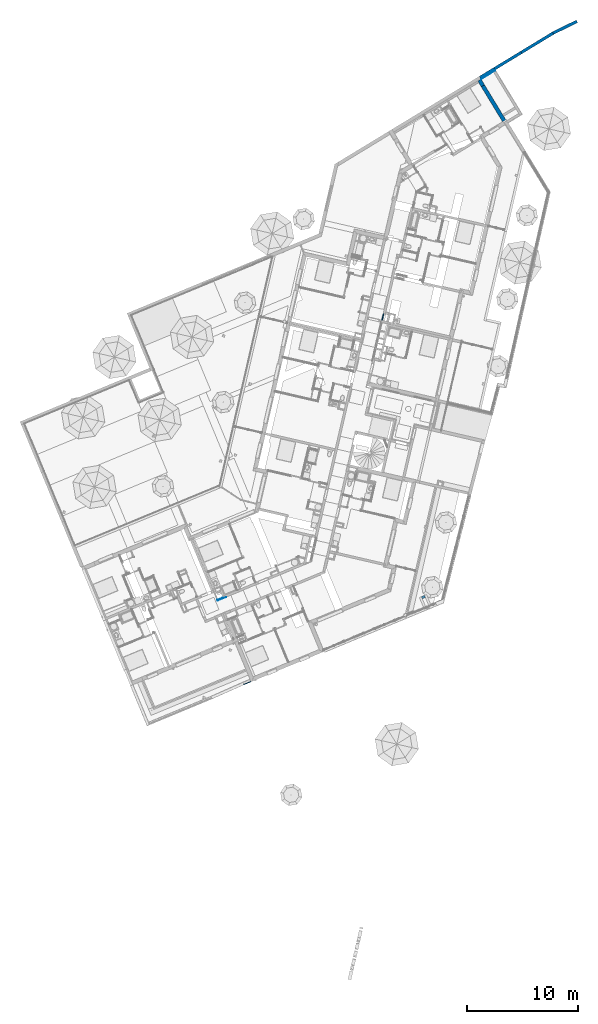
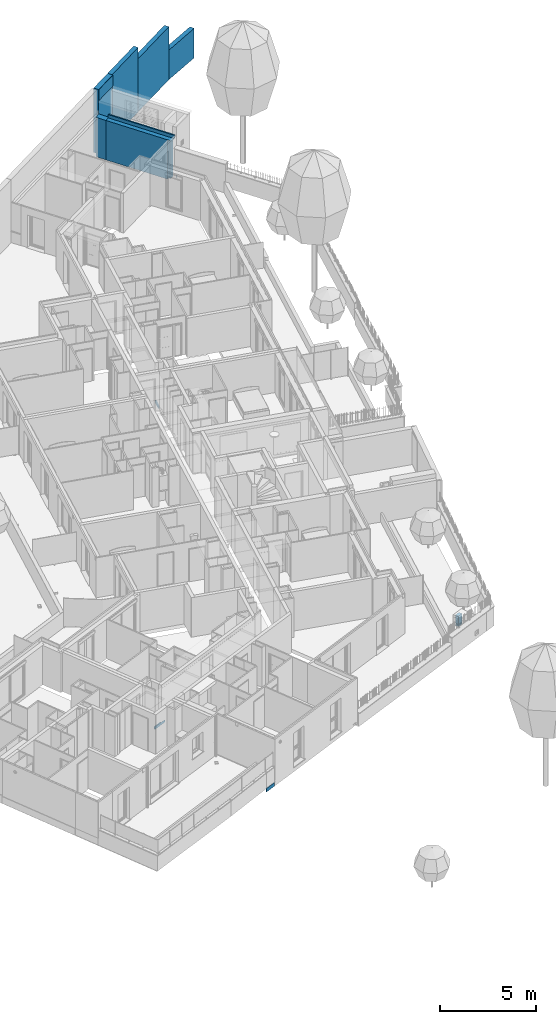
# One storey, part 64 of 119: 11 walls.
"""IFC2X3 building model written with IfcOpenShell, lengths in metres."""

from ifc_helpers import new_model, entity, si_unit, converted_unit, derived_unit, money_unit, direction, frame, origin_with_axes, place, context, subcontext, project, spatial, faceted_brep, material, material_list, type_object, element, save


model = new_model("IFC2X3")

# Units and contexts
model_context = context("Model", 3, precision=1e-05, world=origin_with_axes(), true_north=direction((0.0, 1.0)))
body_context = subcontext(model_context, "Body", "Model", "MODEL_VIEW")
ifc_project = project(units=[si_unit("LENGTHUNIT", "METRE"), si_unit("AREAUNIT", "SQUARE_METRE"), si_unit("VOLUMEUNIT", "CUBIC_METRE"), converted_unit("PLANEANGLEUNIT", "DEGREE", entity("IfcPlaneAngleMeasure", 0.0174532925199), si_unit("PLANEANGLEUNIT", "RADIAN"), dimensions=[0, 0, 0, 0, 0, 0, 0]), si_unit("SOLIDANGLEUNIT", "STERADIAN"), money_unit("EUR"), converted_unit("TIMEUNIT", "Year", entity("IfcTimeMeasure", 31556926.0), si_unit("TIMEUNIT", "SECOND"), dimensions=[0, 0, 1, 0, 0, 0, 0]), si_unit("MASSUNIT", "GRAM", prefix="KILO"), si_unit("THERMODYNAMICTEMPERATUREUNIT", "DEGREE_CELSIUS"), si_unit("LUMINOUSINTENSITYUNIT", "LUMEN"), si_unit("ENERGYUNIT", "JOULE", prefix="MEGA"), derived_unit("THERMALCONDUCTANCEUNIT", [(si_unit("POWERUNIT", "WATT"), 1), (si_unit("LENGTHUNIT", "METRE"), -1), (si_unit("THERMODYNAMICTEMPERATUREUNIT", "KELVIN"), -1)]), derived_unit("SPECIFICHEATCAPACITYUNIT", [(si_unit("ENERGYUNIT", "JOULE"), 1), (si_unit("MASSUNIT", "GRAM", prefix="KILO"), -1), (si_unit("THERMODYNAMICTEMPERATUREUNIT", "KELVIN"), -1)]), derived_unit("MASSDENSITYUNIT", [(si_unit("MASSUNIT", "GRAM", prefix="KILO"), 1), (si_unit("VOLUMEUNIT", "CUBIC_METRE"), -1)])], contexts=[model_context])

# Site, building, storey
site_placement = place(None, origin_with_axes())
site = spatial("IfcSite", under=ifc_project, at=site_placement, Name="Site", CompositionType="ELEMENT")
building_placement = place(site_placement, origin_with_axes())
building = spatial("IfcBuilding", under=site, at=building_placement, Name="Bâtiment", CompositionType="ELEMENT")
storey_placement = place(building_placement, origin_with_axes())
storey = spatial("IfcBuildingStorey", under=building, at=storey_placement, Name="Rez-de-chaussée", CompositionType="ELEMENT", Elevation=0.0)

# Walls
ifc_material_1 = material(Name="Béton")
wall_type_1 = type_object("IfcWallType", Name="Béton 300", PredefinedType="USERDEFINED")
wall_1_placement = place(storey_placement, frame((0.328833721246, 26.1416269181, -0.03), z_axis=(0.0, 0.0, 1.0), x_axis=(0.854539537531, 0.519386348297, 0.0)))
element("IfcWall", 1, at=wall_1_placement, inside=storey, type_object=wall_type_1, material=ifc_material_1, Name="Voile projeté béton par passes alternées", ObjectType="SOLIDWALL", context=body_context, shape_type="Brep", body=[
    faceted_brep([(1.515, -0.3, 4.1), (1.515, 0.0, 4.1), (0.0, 0.0, 4.1), (0.0, -0.3, 4.1), (1.515, -0.3, 0.0), (1.515, 0.0, 0.0), (0.0, 0.0, 0.0), (0.0, 0.0, 2.75), (0.0, -0.3, 2.75), (0.0, -0.3, 0.0)], [[[0, 1, 2, 3]], [[0, 4, 5, 1]], [[5, 6, 7, 2, 1]], [[2, 7, 8, 3]], [[4, 0, 3, 8, 9]], [[6, 5, 4, 9]], [[6, 9, 8, 7]]]),
])
ifc_material_2 = material(Name="Parpaing 20cm")
wall_type_2 = type_object("IfcWallType", Name="Parpaing 20cm 200", PredefinedType="STANDARD")
wall_2_placement = place(storey_placement, frame((-4.85477478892, -20.5900389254, 0.0), z_axis=(0.0, 0.0, 1.0), x_axis=(0.923701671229, 0.383112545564, 0.0)))
element("IfcWall", 2, at=wall_2_placement, inside=storey, type_object=wall_type_2, material=ifc_material_2, Name="M_Ext-011", ObjectType="STANDARD", context=body_context, shape_type="Brep", body=[
    faceted_brep([(0.3, 0.0, 0.01), (0.3, 0.0, 0.110000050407), (0.3, -0.2, 0.110000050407), (0.3, -0.2, 0.01), (0.0, 0.0, 0.01), (0.0, 0.0, 0.110000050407), (0.0, -0.2, 0.110000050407), (0.0, -0.2, 0.01)], [[[0, 1, 2, 3]], [[4, 5, 1, 0]], [[5, 6, 2, 1]], [[3, 2, 6, 7]], [[4, 0, 3, 7]], [[7, 6, 5, 4]]]),
    faceted_brep([(0.0, -0.2, 0.67), (0.0, -0.2, 0.150000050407), (0.3, -0.2, 0.150000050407), (0.3, -0.2, 0.67), (0.0, 0.0, 0.67), (0.0, 0.0, 0.150000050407), (0.3, 0.0, 0.150000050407), (0.3, 0.0, 0.67)], [[[0, 1, 2, 3]], [[4, 5, 1, 0]], [[5, 6, 2, 1]], [[3, 2, 6, 7]], [[0, 3, 7, 4]], [[7, 6, 5, 4]]]),
])
ifc_material_3 = material(Name="Finition ext - Crépis")
ifc_material_4 = material(Name="Béton cellulaire")
ifc_material_5 = material(Name="Mortier")
ifc_material_6 = material(Name="Isolation - Polystyrène expansé")
ifc_material_7 = material(Name="Bloc ELITHERM")
ifc_material_8 = material(Name="Isolation - Polystyrène extrudé")
ifc_material_9 = material(Name="Finition int - Plaque de plâtre")
ifc_material_list_1 = material_list([ifc_material_3, ifc_material_4, ifc_material_5, ifc_material_6, ifc_material_7, ifc_material_8, ifc_material_9])
wall_type_3 = type_object("IfcWallType", Name="Mur ALKERN + planelle 21 345 x 2720", PredefinedType="USERDEFINED")
wall_3_placement = place(storey_placement, frame((0.809018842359, 25.3805019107, 0.0), z_axis=(0.0, 0.0, 1.0), x_axis=(0.519386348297, -0.854539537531, 0.0)))
element("IfcWall", 3, at=wall_3_placement, inside=storey, type_object=wall_type_3, material=ifc_material_list_1, Name="Mue bloc ALKERN isolé", ObjectType="SOLIDWALL", context=body_context, shape_type="Brep", body=[
    faceted_brep([(0.0, -0.0149999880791, 2.72), (3.79518699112, -0.0149999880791, 2.72), (3.79518699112, 0.0, 2.72), (0.0, 0.0, 2.72), (3.79518699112, -0.0149999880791, 0.0), (0.0, -0.0149999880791, 0.0), (3.79518699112, 0.0, 0.0), (0.0, 0.0, 0.0)], [[[0, 1, 2, 3]], [[4, 1, 0, 5]], [[6, 2, 1, 4]], [[3, 2, 6, 7]], [[7, 5, 0, 3]], [[7, 6, 4, 5]]]),
    faceted_brep([(3.99518699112, 0.0, 0.0), (3.99518699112, 0.0, 2.50955), (3.99937179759, 0.0, 2.50955), (3.99937176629, 0.0, 0.207793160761), (3.99832640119, 0.0, 0.207793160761), (3.99832640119, 0.0, 0.176532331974), (3.99832640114, 0.0, 0.169727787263), (3.99937179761, 0.0, 0.169414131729), (4.02457697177, 0.0, 0.161852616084), (4.02457697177, 0.0, 0.160000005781), (4.02457697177, 0.0, 0.133633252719), (4.00937182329, 0.0, 0.133633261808), (4.00937182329, 0.0, 0.0), (3.99518699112, -0.0149999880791, 2.50955), (3.99518699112, -0.0149999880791, 0.0), (3.99937179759, -0.0149999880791, 2.50955), (3.99937176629, -0.0149999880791, 0.207793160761), (3.99832640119, -0.0149999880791, 0.207793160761), (3.99832640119, -0.0149999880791, 0.176532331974), (3.99832640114, -0.0149999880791, 0.169727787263), (3.99937179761, -0.0149999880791, 0.169414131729), (4.02457697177, -0.0149999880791, 0.161852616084), (4.02457697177, -0.0149999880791, 0.160000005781), (4.02457697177, -0.0149999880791, 0.133633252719), (4.00937182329, -0.0149999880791, 0.133633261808), (4.00937182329, -0.0149999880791, 0.0)], [[[0, 1, 2, 3, 4, 5, 6, 7, 8, 9, 10, 11, 12]], [[13, 1, 0, 14]], [[1, 13, 15, 2]], [[2, 15, 16, 3]], [[3, 16, 17, 4]], [[5, 4, 17, 18]], [[5, 18, 19, 6]], [[20, 7, 6, 19]], [[7, 20, 21, 8]], [[9, 8, 21, 22]], [[9, 22, 23, 10]], [[10, 23, 24, 11]], [[25, 12, 11, 24]], [[14, 0, 12, 25]], [[13, 14, 25, 24, 23, 22, 21, 20, 19, 18, 17, 16, 15]]]),
    faceted_brep([(3.99518699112, 0.0, 2.51999999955), (3.99518699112, 0.0, 2.72), (3.99937180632, 0.0, 2.72), (3.99937180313, 0.0, 2.51999999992), (3.99937180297, 0.0, 2.50999999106), (3.99518699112, 0.0, 2.50999999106), (3.99518699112, -0.0149999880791, 2.72), (3.99518699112, -0.0149999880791, 2.51999999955), (3.99937180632, -0.0149999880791, 2.72), (3.99937180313, -0.0149999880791, 2.51999999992), (3.99937180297, -0.0149999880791, 2.50999999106), (3.99518699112, -0.0149999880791, 2.50999999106)], [[[0, 1, 2, 3, 4, 5]], [[6, 1, 0, 7]], [[1, 6, 8, 2]], [[3, 2, 8, 9]], [[3, 9, 10, 4]], [[11, 5, 4, 10]], [[7, 0, 5, 11]], [[6, 7, 11, 10, 9, 8]]]),
    faceted_brep([(3.95137179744, -0.0629999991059, 2.72), (3.95137179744, -0.015, 2.72), (0.0, -0.015, 2.72), (0.0, -0.0629999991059, 2.72), (3.95137179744, -0.015, 2.51999999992), (3.95137179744, -0.0629999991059, 2.51999999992), (0.0, -0.015, 2.51999999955), (0.0, -0.0629999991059, 2.51999999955)], [[[0, 1, 2, 3]], [[4, 1, 0, 5]], [[1, 4, 6, 2]], [[6, 7, 3, 2]], [[5, 0, 3, 7]], [[4, 5, 7, 6]]]),
    faceted_brep([(3.93137179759, -0.083, 2.52), (3.93137179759, -0.015, 2.52), (0.0, -0.015, 2.52), (0.0, -0.083, 2.52), (3.93137179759, -0.015, 2.50999999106), (3.93137179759, -0.083, 2.50999999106), (0.0, -0.015, 2.51), (0.0, -0.083, 2.51)], [[[0, 1, 2, 3]], [[4, 1, 0, 5]], [[1, 4, 6, 2]], [[7, 3, 2, 6]], [[5, 0, 3, 7]], [[4, 5, 7, 6]]]),
    faceted_brep([(0.0, -0.083000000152, 2.72), (3.93137179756, -0.083000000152, 2.72), (3.93137179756, -0.0630000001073, 2.72), (0.0, -0.0630000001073, 2.72), (0.0, -0.083000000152, 2.51999999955), (3.93137179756, -0.083000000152, 2.51999999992), (3.93137179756, -0.0630000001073, 2.51999999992), (0.0, -0.0630000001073, 2.51999999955)], [[[0, 1, 2, 3]], [[4, 5, 1, 0]], [[5, 6, 2, 1]], [[3, 2, 6, 7]], [[4, 0, 3, 7]], [[7, 6, 5, 4]]]),
    faceted_brep([(3.93137179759, -0.0829999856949, 2.50999999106), (3.93137179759, -0.015, 2.50999999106), (0.0, -0.015, 2.50999999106), (0.0, -0.0829999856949, 2.50999999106), (3.93137179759, -0.015, 2.50955), (3.93137179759, -0.214999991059, 2.50999999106), (3.93137179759, -0.214999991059, 2.50955), (3.79937180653, -0.015, 2.50955001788), (3.79937180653, -0.015, 0.207793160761), (3.79937180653, -0.015, 0.176532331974), (3.79937180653, -0.015, 0.169414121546), (3.79937180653, -0.015, 0.160000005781), (3.79937180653, -0.015, 0.133633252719), (3.79937180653, -0.015, 0.0), (0.0, -0.015, 0.0), (0.0, -0.214999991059, 0.0), (0.0, -0.214999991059, 2.50999999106), (3.79937180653, -0.214999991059, 0.0), (3.79937180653, -0.214999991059, 0.133633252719), (3.79937180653, -0.214999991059, 0.160000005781), (3.79937180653, -0.214999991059, 0.169414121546), (3.79937180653, -0.214999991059, 0.176532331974), (3.79937180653, -0.214999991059, 0.207793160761), (3.79937180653, -0.214999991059, 2.50955001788)], [[[0, 1, 2, 3]], [[4, 1, 0, 5, 6]], [[1, 4, 7, 8, 9, 10, 11, 12, 13, 14, 2]], [[2, 14, 15, 16, 3]], [[5, 0, 3, 16]], [[6, 5, 16, 15, 17, 18, 19, 20, 21, 22, 23]], [[4, 6, 23, 7]], [[23, 22, 8, 7]], [[21, 9, 8, 22]], [[9, 21, 20, 10]], [[20, 19, 11, 10]], [[12, 11, 19, 18]], [[12, 18, 17, 13]], [[13, 17, 15, 14]]]),
    faceted_brep([(0.0, -0.335000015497, 2.51), (3.9313717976, -0.335000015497, 2.50999999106), (3.93137179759, -0.215000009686, 2.50999999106), (0.0, -0.215000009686, 2.51), (3.79937181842, -0.335000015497, 2.50955001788), (3.9313717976, -0.335000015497, 2.50955), (0.0, -0.335000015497, 0.0), (3.67937178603, -0.335000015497, 0.0), (3.67937178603, -0.335000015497, 0.133633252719), (3.67937178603, -0.335000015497, 0.160000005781), (3.67937178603, -0.335000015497, 0.169414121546), (3.67937178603, -0.335000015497, 0.176532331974), (3.67937178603, -0.335000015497, 0.207793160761), (3.67937178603, -0.335000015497, 2.50955001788), (3.93137179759, -0.215000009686, 2.50955), (3.79937181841, -0.215000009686, 2.50955001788), (3.67937178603, -0.215000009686, 2.50955001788), (3.67937178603, -0.215000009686, 0.207793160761), (3.67937178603, -0.215000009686, 0.176532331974), (3.67937178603, -0.215000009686, 0.169414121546), (3.67937178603, -0.215000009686, 0.160000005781), (3.67937178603, -0.215000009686, 0.133633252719), (3.67937178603, -0.215000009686, 0.0), (0.0, -0.215000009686, 0.0)], [[[0, 1, 2, 3]], [[4, 5, 1, 0, 6, 7, 8, 9, 10, 11, 12, 13]], [[5, 14, 2, 1]], [[3, 2, 14, 15, 16, 17, 18, 19, 20, 21, 22, 23]], [[3, 23, 6, 0]], [[15, 14, 5, 4]], [[6, 23, 22, 7]], [[22, 21, 8, 7]], [[21, 20, 9, 8]], [[9, 20, 19, 10]], [[10, 19, 18, 11]], [[12, 11, 18, 17]], [[16, 13, 12, 17]], [[15, 4, 13, 16]]]),
    faceted_brep([(0.0, -0.34499998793, 2.51), (3.9313717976, -0.34499998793, 2.50999999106), (3.9313717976, -0.335000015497, 2.50999999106), (0.0, -0.335000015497, 2.51), (3.79937181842, -0.34499998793, 2.50955001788), (3.9313717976, -0.34499998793, 2.50955), (0.0, -0.34499998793, 0.0), (3.66937181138, -0.34499998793, 0.0), (3.66937181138, -0.34499998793, 0.133633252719), (3.66937181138, -0.34499998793, 0.160000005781), (3.66937181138, -0.34499998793, 0.169414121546), (3.66937181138, -0.34499998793, 0.176532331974), (3.66937181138, -0.34499998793, 0.207793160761), (3.66937181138, -0.34499998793, 2.50955001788), (3.67937178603, -0.34499998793, 2.50955001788), (3.9313717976, -0.335000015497, 2.50955), (3.79937181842, -0.335000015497, 2.50955001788), (3.67937178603, -0.335000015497, 2.50955001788), (3.66937181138, -0.335000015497, 2.50955001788), (3.66937181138, -0.335000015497, 0.207793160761), (3.66937181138, -0.335000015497, 0.176532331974), (3.66937181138, -0.335000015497, 0.169414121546), (3.66937181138, -0.335000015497, 0.160000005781), (3.66937181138, -0.335000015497, 0.133633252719), (3.66937181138, -0.335000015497, 0.0), (0.0, -0.335000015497, 0.0)], [[[0, 1, 2, 3]], [[4, 5, 1, 0, 6, 7, 8, 9, 10, 11, 12, 13, 14]], [[5, 15, 2, 1]], [[3, 2, 15, 16, 17, 18, 19, 20, 21, 22, 23, 24, 25]], [[6, 0, 3, 25]], [[16, 15, 5, 4]], [[7, 6, 25, 24]], [[24, 23, 8, 7]], [[22, 9, 8, 23]], [[21, 10, 9, 22]], [[11, 10, 21, 20]], [[12, 11, 20, 19]], [[18, 13, 12, 19]], [[17, 14, 13, 18]], [[17, 16, 4, 14]]]),
])
ifc_material_10 = material(Name="Cloison - Carreaux de plâtre")
wall_type_4 = type_object("IfcWallType", Name="Cloison - Carreaux de plâtre 74", PredefinedType="USERDEFINED")
wall_4_placement = place(storey_placement, frame((-23.1735961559, -20.9432584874, 0.0), z_axis=(0.0, 0.0, 1.0), x_axis=(0.923701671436, 0.383112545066, 0.0)))
element("IfcWall", 4, at=wall_4_placement, inside=storey, type_object=wall_type_4, material=ifc_material_10, Name="Carreaux de plâtre 8cm", ObjectType="PARTITIONING", context=body_context, shape_type="Brep", body=[
    faceted_brep([(0.0, -0.01, 0.15), (0.0, -0.01, 0.005), (0.845366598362, -0.01, 0.005), (0.845366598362, -0.01, 0.15), (0.0, 0.064, 0.0), (0.0, -0.01, 0.0), (0.0, 0.064, 0.15), (0.845366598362, -0.00907313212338, 0.005), (0.845366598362, -0.00907313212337, 0.0), (0.845366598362, -5.08658004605e-10, 0.0), (0.845366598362, -5.18044274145e-10, 0.15), (0.555366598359, -4.9602100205e-10, 0.15), (0.555366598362, 0.064, 0.15), (0.555366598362, 0.064, 0.0), (0.555366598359, -4.9602100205e-10, 0.0)], [[[0, 1, 2, 3]], [[4, 5, 1, 0, 6]], [[1, 7, 2]], [[2, 7, 8, 9, 10, 3]], [[3, 10, 11, 12, 6, 0]], [[9, 8, 5, 4, 13, 14]], [[5, 8, 7, 1]], [[4, 6, 12, 13]], [[9, 14, 11, 10]], [[14, 13, 12, 11]]]),
])
wall_5_placement = place(storey_placement, frame((-8.2935087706, 4.82801168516, 0.0), z_axis=(0.0, 0.0, 1.0), x_axis=(-0.224876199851, -0.974387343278, 0.0)))
element("IfcWall", 5, at=wall_5_placement, inside=storey, type_object=wall_type_4, material=ifc_material_10, Name="Carreaux de plâtre 8cm", ObjectType="PARTITIONING", context=body_context, shape_type="Brep", body=[
    faceted_brep([(0.0, 0.074, 0.0), (0.610475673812, 0.074, 0.0), (0.610475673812, 0.0, 0.0), (0.600475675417, 0.0, 0.0), (0.0, 0.000404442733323, 0.0), (0.0, 0.074, 0.15), (0.610475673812, 0.074, 0.15), (0.610475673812, 0.0, 0.15), (0.0, 0.0, 0.15), (0.0, 0.0, 0.005), (0.600475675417, 7.50121742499e-10, 0.005), (0.0, 0.000404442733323, 0.005)], [[[0, 1, 2, 3, 4]], [[5, 6, 1, 0]], [[7, 2, 1, 6]], [[3, 2, 7, 8, 9, 10]], [[4, 3, 10, 11]], [[0, 4, 11, 9, 8, 5]], [[8, 7, 6, 5]], [[9, 11, 10]]]),
])
ifc_material_11 = material(Name="Etanchéité résine")
ifc_material_list_2 = material_list([ifc_material_3, ifc_material_1, ifc_material_11, ifc_material_8, ifc_material_9])
wall_type_5 = type_object("IfcWallType", Name="1 - Mur Extérieur BETON étanché+Isolant 120 + ravalement 345", PredefinedType="USERDEFINED")
wall_6_placement = place(storey_placement, frame((0.484578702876, 25.8853817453, 0.0), z_axis=(0.0, 0.0, 1.0), x_axis=(0.519386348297, -0.854539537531, 0.0)))
element("IfcWall", 6, at=wall_6_placement, inside=storey, type_object=wall_type_5, material=ifc_material_list_2, Name="M_Ext-007", ObjectType="SOLIDWALL", context=body_context, shape_type="Brep", body=[
    faceted_brep([(0.0, 0.0, 2.51), (0.600136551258, 0.0, 2.51), (0.600136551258, 0.015, 2.51), (0.0, 0.015, 2.51), (0.0, 0.0, 0.0), (0.600136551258, 0.0, 0.0), (0.600136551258, 0.015, 0.0), (0.0, 0.015, 0.0)], [[[0, 1, 2, 3]], [[4, 5, 1, 0]], [[2, 1, 5, 6]], [[3, 2, 6, 7]], [[4, 0, 3, 7]], [[7, 6, 5, 4]]]),
    faceted_brep([(0.0, -0.2, 2.51), (0.600136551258, -0.2, 2.51), (0.600136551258, 0.0, 2.51), (0.0, 0.0, 2.51), (0.0, -0.2, 0.0), (0.600136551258, -0.2, 0.0), (0.600136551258, 0.0, 0.0), (0.0, 0.0, 0.0)], [[[0, 1, 2, 3]], [[4, 5, 1, 0]], [[2, 1, 5, 6]], [[3, 2, 6, 7]], [[4, 0, 3, 7]], [[7, 6, 5, 4]]]),
    faceted_brep([(0.0, -0.21, 2.51), (0.600136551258, -0.21, 2.51), (0.600136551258, -0.2, 2.51), (0.0, -0.2, 2.51), (0.0, -0.21, 0.0), (0.600136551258, -0.21, 0.0), (0.600136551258, -0.2, 0.0), (0.0, -0.2, 0.0)], [[[0, 1, 2, 3]], [[4, 5, 1, 0]], [[2, 1, 5, 6]], [[3, 2, 6, 7]], [[4, 0, 3, 7]], [[7, 6, 5, 4]]]),
    faceted_brep([(0.600136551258, -0.21, 0.0), (0.00999999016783, -0.21, 0.0), (0.00999999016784, -0.21, 2.51000000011), (0.600136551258, -0.21, 2.51), (0.600136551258, -0.32, 0.0), (0.0099999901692, -0.32, 0.0), (0.0099999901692, -0.32, 2.51000000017), (0.600136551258, -0.32, 2.51)], [[[0, 1, 2, 3]], [[4, 5, 1, 0]], [[5, 6, 2, 1]], [[3, 2, 6, 7]], [[0, 3, 7, 4]], [[7, 6, 5, 4]]]),
    faceted_brep([(0.600136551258, -0.32, 0.0), (0.130000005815, -0.32, 0.0), (0.130000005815, -0.32, 2.51000000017), (0.600136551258, -0.32, 2.51), (0.600136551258, -0.33, 0.0), (0.130000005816, -0.33, 0.0), (0.130000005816, -0.33, 2.51000000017), (0.600136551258, -0.33, 2.51)], [[[0, 1, 2, 3]], [[4, 5, 1, 0]], [[5, 6, 2, 1]], [[3, 2, 6, 7]], [[0, 3, 7, 4]], [[7, 6, 5, 4]]]),
])
wall_type_6 = type_object("IfcWallType", Name="Finition ext - Crépis 15", PredefinedType="USERDEFINED")
wall_7_placement = place(storey_placement, frame((0.492439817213, 25.8724479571, 3.37), z_axis=(0.0, 0.0, 1.0), x_axis=(0.854539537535, 0.519386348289, 0.0)))
element("IfcWall", 7, at=wall_7_placement, inside=storey, type_object=wall_type_6, material=ifc_material_3, Name="M_Ext-008", ObjectType="SOLIDWALL", context=body_context, shape_type="Brep", body=[
    faceted_brep([(0.0150000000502, 0.015, 0.7), (0.0150000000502, 0.0, 0.7), (1.515, 0.0, 0.7), (1.515, 0.015, 0.7), (0.0150000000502, 0.015, 0.0), (0.0150000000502, 0.0, 0.0), (1.515, 0.0, 0.0), (1.515, 0.015, 0.0)], [[[0, 1, 2, 3]], [[4, 5, 1, 0]], [[1, 5, 6, 2]], [[7, 3, 2, 6]], [[4, 0, 3, 7]], [[5, 4, 7, 6]]]),
])
wall_type_7 = type_object("IfcWallType", Name="Béton 48", PredefinedType="USERDEFINED")
wall_8_placement = place(storey_placement, frame((-20.8134822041, -28.4561944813, -0.23), z_axis=(0.0, 0.0, 1.0), x_axis=(0.923701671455, 0.38311254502, 0.0)))
element("IfcWall", 8, at=wall_8_placement, inside=storey, type_object=wall_type_7, material=ifc_material_1, Name="M_Ext-007", ObjectType="PARAPET", context=body_context, shape_type="Brep", body=[
    faceted_brep([(0.0, -0.048, 0.23), (0.678258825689, -0.048, 0.23), (0.678258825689, 0.0, 0.23), (0.0, 0.0, 0.23), (0.0, -0.048, 0.0), (0.678258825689, -0.048, 0.0), (0.678258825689, 0.0, 0.0), (0.0, 0.0, 0.0)], [[[0, 1, 2, 3]], [[4, 5, 1, 0]], [[2, 1, 5, 6]], [[3, 2, 6, 7]], [[4, 0, 3, 7]], [[7, 6, 5, 4]]]),
])
ifc_material_list_3 = material_list([ifc_material_1, ifc_material_3])
wall_type_8 = type_object("IfcWallType", Name="1 - Mur Extérieur Béton 25+ ravalement 1 face copie 265", PredefinedType="USERDEFINED")
wall_9_placement = place(storey_placement, frame((1.62346112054, 26.9284972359, -0.03), z_axis=(0.0, 0.0, 1.0), x_axis=(0.854539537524, 0.519386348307, 0.0)))
element("IfcWall", 9, at=wall_9_placement, inside=storey, type_object=wall_type_8, material=ifc_material_list_3, Name="Voile projeté béton par passes alternées", ObjectType="SOLIDWALL", context=body_context, shape_type="Brep", body=[
    faceted_brep([(0.0, 0.0, 4.1), (0.0, -0.25, 4.1), (2.83245348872, -0.25, 4.1), (2.83245348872, 0.0, 4.1), (0.0, 0.0, 0.0), (0.0, -0.25, 0.0), (2.83245348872, -0.25, 0.0), (2.83245348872, 0.0, 0.0)], [[[0, 1, 2, 3]], [[4, 5, 1, 0]], [[1, 5, 6, 2]], [[7, 3, 2, 6]], [[4, 0, 3, 7]], [[5, 4, 7, 6]]]),
    faceted_brep([(0.0499999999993, -0.265, 3.25), (0.0, -0.265, 3.25), (0.0, -0.265, 0.0), (2.83245348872, -0.265, 0.0), (2.83245348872, -0.265, 4.1), (0.0, -0.265, 4.1), (0.0, -0.265, 3.4), (0.0499999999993, -0.265, 3.4), (0.0499999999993, -0.25, 3.25), (0.0, -0.25, 3.25), (0.0, -0.25, 0.0), (2.83245348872, -0.25, 0.0), (2.83245348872, -0.25, 4.1), (0.0, -0.25, 4.1), (0.0, -0.25, 3.4), (0.0499999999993, -0.25, 3.4)], [[[0, 1, 2, 3, 4, 5, 6, 7]], [[1, 0, 8, 9]], [[1, 9, 10, 2]], [[2, 10, 11, 3]], [[11, 12, 4, 3]], [[13, 5, 4, 12]], [[14, 6, 5, 13]], [[7, 6, 14, 15]], [[0, 7, 15, 8]], [[15, 14, 13, 12, 11, 10, 9, 8]]]),
])
wall_10_placement = place(storey_placement, frame((4.04390461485, 28.3996349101, -0.03), z_axis=(0.0, 0.0, 1.0), x_axis=(0.854539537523, 0.51938634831, 0.0)))
element("IfcWall", 10, at=wall_10_placement, inside=storey, type_object=wall_type_8, material=ifc_material_list_3, Name="Voile projeté béton par passes alternées", ObjectType="SOLIDWALL", context=body_context, shape_type="Brep", body=[
    faceted_brep([(3.32463107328, -0.25, 0.0), (3.32463107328, -0.25, 1.88), (3.33539242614, -0.25, 1.88), (3.33539242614, -0.25, 3.38), (0.0, -0.25, 3.38), (0.0, -0.25, 0.0), (3.33539242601, -2.98023650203e-09, 0.0), (3.33539242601, -2.98023650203e-09, 1.88), (3.33539242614, 0.0, 3.38), (0.0, 0.0, 3.38), (0.0, 0.0, 0.0)], [[[0, 1, 2, 3, 4, 5]], [[1, 0, 6, 7]], [[7, 2, 1]], [[2, 7, 8, 3]], [[3, 8, 9, 4]], [[5, 4, 9, 10]], [[6, 0, 5, 10]], [[7, 6, 10, 9, 8]]]),
    faceted_brep([(3.3239853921, -0.265, 0.0), (3.3239853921, -0.265, 1.88), (3.33539242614, -0.265, 1.88), (3.33539242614, -0.265, 3.38), (0.0, -0.265, 3.38), (0.0, -0.265, 0.0), (3.32463107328, -0.25, 0.0), (3.32463107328, -0.25, 1.88), (3.33539242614, -0.25, 1.88), (3.33539242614, -0.25, 3.38), (0.0, -0.25, 3.38), (0.0, -0.25, 0.0)], [[[0, 1, 2, 3, 4, 5]], [[1, 0, 6, 7]], [[8, 2, 1, 7]], [[2, 8, 9, 3]], [[3, 9, 10, 4]], [[5, 4, 10, 11]], [[6, 0, 5, 11]], [[7, 6, 11, 10, 9, 8]]]),
])
wall_11_placement = place(storey_placement, frame((6.89412931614, 30.1319922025, -0.03), z_axis=(0.0, 0.0, 1.0), x_axis=(0.89601032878, 0.444033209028, 0.0)))
element("IfcWall", 11, at=wall_11_placement, inside=storey, type_object=wall_type_8, material=ifc_material_list_3, Name="Voile projeté béton par passes alternées", ObjectType="SOLIDWALL", context=body_context, shape_type="Brep", body=[
    faceted_brep([(0.0107613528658, -0.25, 1.88), (1.28295596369e-10, -2.9802293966e-09, 1.88), (1.28292043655e-10, -2.9802293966e-09, 0.0), (0.0107613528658, -0.25, 0.0), (2.40578651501, -0.25, 1.88), (2.40578651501, 0.0, 1.88), (2.40578651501, 0.0, 0.0), (2.40578651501, -0.25, 0.0)], [[[0, 1, 2, 3]], [[1, 0, 4, 5]], [[2, 1, 5, 6]], [[3, 2, 6, 7]], [[4, 0, 3, 7]], [[5, 4, 7, 6]]]),
    faceted_brep([(0.0107613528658, -0.25, 1.88), (0.0114070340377, -0.265, 1.88), (2.40578651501, -0.265, 1.88), (2.40578651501, -0.25, 1.88), (0.0114070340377, -0.265, 0.0), (0.0107613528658, -0.25, 0.0), (2.40578651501, -0.265, 0.0), (2.40578651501, -0.25, 0.0)], [[[0, 1, 2, 3]], [[4, 1, 0, 5]], [[1, 4, 6, 2]], [[3, 2, 6, 7]], [[5, 0, 3, 7]], [[4, 5, 7, 6]]]),
])

save(model, "model.ifc")
